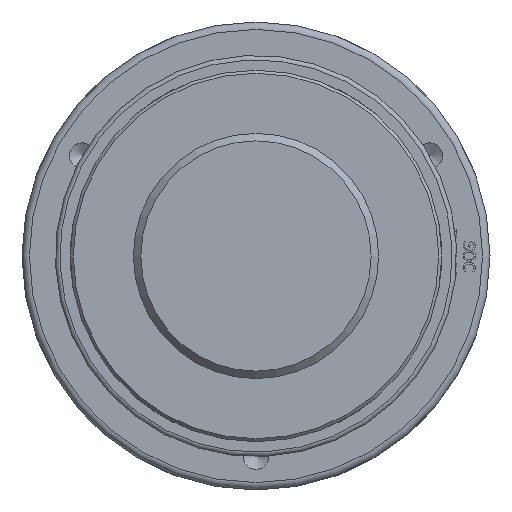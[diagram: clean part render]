
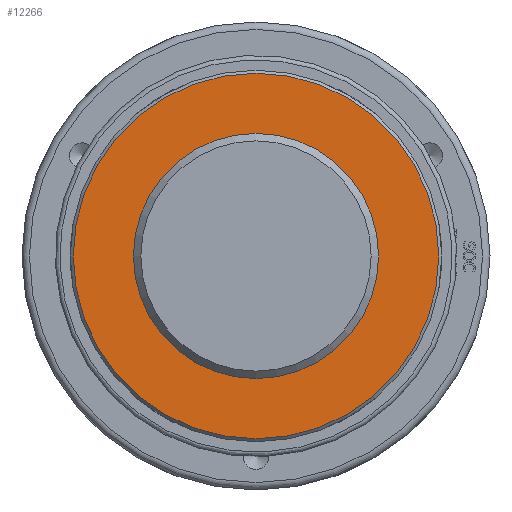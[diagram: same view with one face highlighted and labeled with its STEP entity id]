
A CAD part, front view. The second image highlights one B-rep face of the part: STEP entity #12266.
In plain terms, the highlighted planar face has unit normal (0, -1, 0) as drawn and (0, 1, 0) by its records, which use the part's own axes.
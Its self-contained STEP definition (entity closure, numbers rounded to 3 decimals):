
#90=CIRCLE('',#12903,123.);
#92=CIRCLE('',#12907,79.253);
#173=FACE_BOUND('',#1617,.T.);
#399=PLANE('',#12906);
#866=FACE_OUTER_BOUND('',#1616,.T.);
#1616=EDGE_LOOP('',(#9676));
#1617=EDGE_LOOP('',(#9677));
#5454=VERTEX_POINT('',#18818);
#5468=VERTEX_POINT('',#19058);
#6975=EDGE_CURVE('',#5454,#5454,#90,.T.);
#6989=EDGE_CURVE('',#5468,#5468,#92,.T.);
#9676=ORIENTED_EDGE('',*,*,#6975,.F.);
#9677=ORIENTED_EDGE('',*,*,#6989,.T.);
#12266=ADVANCED_FACE('',(#866,#173),#399,.T.);
#12903=AXIS2_PLACEMENT_3D('',#18819,#14014,#14015);
#12906=AXIS2_PLACEMENT_3D('',#19057,#14020,#14021);
#12907=AXIS2_PLACEMENT_3D('',#19059,#14022,#14023);
#14014=DIRECTION('center_axis',(0.,-1.,0.));
#14015=DIRECTION('ref_axis',(1.,0.,0.));
#14020=DIRECTION('center_axis',(0.,1.,0.));
#14021=DIRECTION('ref_axis',(0.,0.,1.));
#14022=DIRECTION('center_axis',(0.,-1.,0.));
#14023=DIRECTION('ref_axis',(1.,0.,0.));
#18818=CARTESIAN_POINT('',(-123.,82.5,0.));
#18819=CARTESIAN_POINT('Origin',(0.,82.5,0.));
#19057=CARTESIAN_POINT('Origin',(0.,82.5,0.));
#19058=CARTESIAN_POINT('',(-79.253,82.5,0.));
#19059=CARTESIAN_POINT('Origin',(0.,82.5,0.));
